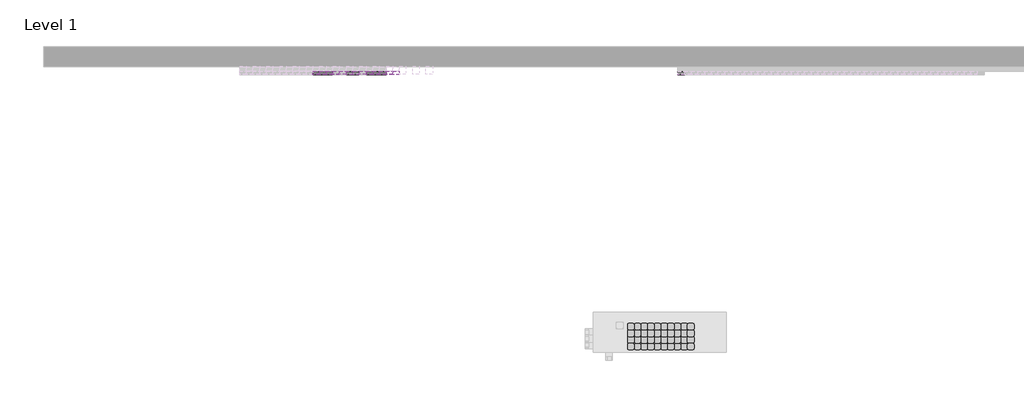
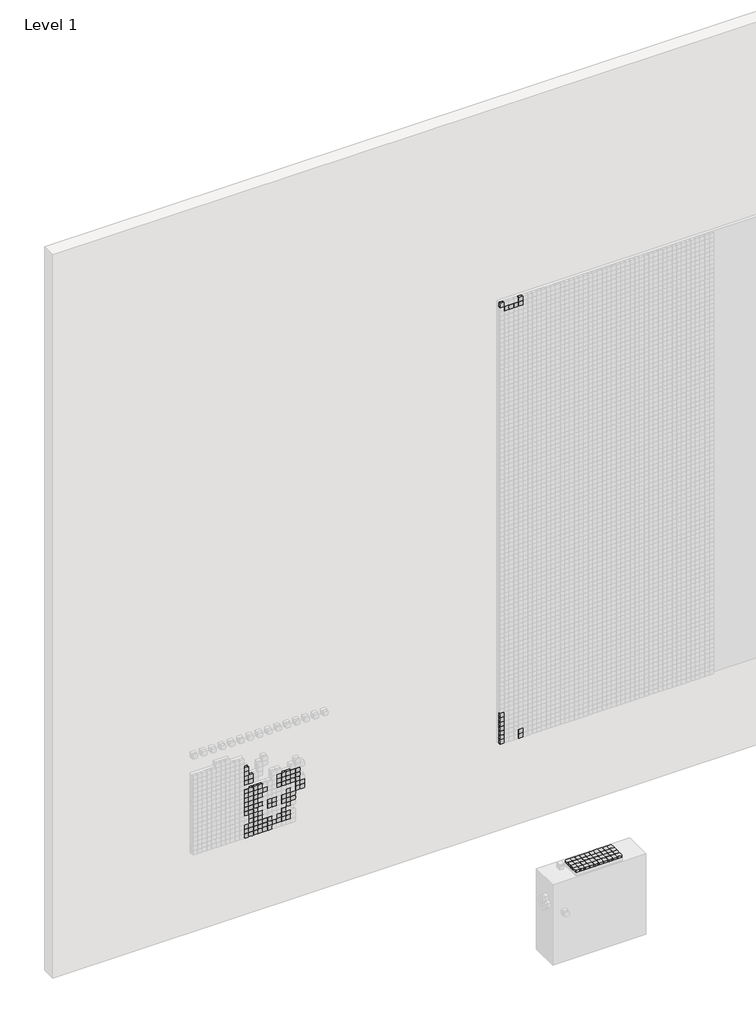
# One storey, part 3 of 71: 147 proxies.
"""IFC4 building model written with IfcOpenShell, lengths in millimetres."""

from ifc_helpers import new_model, si_unit, origin, place, context, project, spatial, transform, mapped, element, save
from components import generic_models_afde289c

model = new_model("IFC4")

# Units and contexts
model_context = context("Model", 3, world=origin())
ifc_project = project(units=[si_unit("LENGTHUNIT", "METRE", prefix="MILLI")], contexts=[model_context])

# Site, building, storey
site = spatial("IfcSite", under=ifc_project)
building = spatial("IfcBuilding", under=site)
storey = spatial("IfcBuildingStorey", under=building, Name="Level 1", Elevation=0.0)

# Proxies
placement = place(None, origin())
generic_models_shape = generic_models_afde289c(model_context)
element("IfcBuildingElementProxy", 1, Name="Pixel_M : Pixel_M", ObjectType="Pixel_M : Pixel_M", at=placement, inside=storey, context=model_context, shape_type="MappedRepresentation", body=[
    mapped(generic_models_shape, transform((4433.8917257, -2053.0296603, 913.2497015), x_axis=(0.0, 1.0, 0.0), y_axis=(-1.0, 0.0, 0.0), z_axis=(0.0, 0.0, 1.0))),
])
element("IfcBuildingElementProxy", 2, Name="Pixel_M : Pixel_M", ObjectType="Pixel_M : Pixel_M", at=placement, inside=storey, context=model_context, shape_type="MappedRepresentation", body=[
    mapped(generic_models_shape, transform((4433.8917257, -2203.0296603, 913.2497015), x_axis=(0.0, 1.0, 0.0), y_axis=(-1.0, 0.0, 0.0), z_axis=(0.0, 0.0, 1.0))),
])
element("IfcBuildingElementProxy", 3, Name="Pixel_M : Pixel_M", ObjectType="Pixel_M : Pixel_M", at=placement, inside=storey, context=model_context, shape_type="MappedRepresentation", body=[
    mapped(generic_models_shape, transform((4883.8917257, -2053.0296603, 913.2497015), x_axis=(0.0, 1.0, 0.0), y_axis=(-1.0, 0.0, 0.0), z_axis=(0.0, 0.0, 1.0))),
])
element("IfcBuildingElementProxy", 4, Name="Pixel_M : Pixel_M", ObjectType="Pixel_M : Pixel_M", at=placement, inside=storey, context=model_context, shape_type="MappedRepresentation", body=[
    mapped(generic_models_shape, transform((4883.8917257, -2203.0296603, 913.2497015), x_axis=(0.0, 1.0, 0.0), y_axis=(-1.0, 0.0, 0.0), z_axis=(0.0, 0.0, 1.0))),
])
element("IfcBuildingElementProxy", 5, Name="Pixel_M : Pixel_M", ObjectType="Pixel_M : Pixel_M", at=placement, inside=storey, context=model_context, shape_type="MappedRepresentation", body=[
    mapped(generic_models_shape, transform((4762.4280941, -75.0, 5966.3566215), x_axis=(1.0, 0.0, 0.0), y_axis=(0.0, 0.0, 1.0), z_axis=(0.0, -1.0, 0.0))),
])
element("IfcBuildingElementProxy", 6, Name="Pixel_M : Pixel_M", ObjectType="Pixel_M : Pixel_M", at=placement, inside=storey, context=model_context, shape_type="MappedRepresentation", body=[
    mapped(generic_models_shape, transform((4762.4280941, -75.0, 1016.3566215), x_axis=(1.0, 0.0, 0.0), y_axis=(0.0, 0.0, 1.0), z_axis=(0.0, -1.0, 0.0))),
])
element("IfcBuildingElementProxy", 7, Name="Pixel_M : Pixel_M", ObjectType="Pixel_M : Pixel_M", at=placement, inside=storey, context=model_context, shape_type="MappedRepresentation", body=[
    mapped(generic_models_shape, transform((2270.0, -75.0, 913.7975209), x_axis=(1.0, 0.0, 0.0), y_axis=(0.0, 0.0, 1.0), z_axis=(0.0, -1.0, 0.0))),
])
element("IfcBuildingElementProxy", 8, Name="Pixel_M : Pixel_M", ObjectType="Pixel_M : Pixel_M", at=placement, inside=storey, context=model_context, shape_type="MappedRepresentation", body=[
    mapped(generic_models_shape, transform((2220.0, -75.0, 913.7975209), x_axis=(1.0, 0.0, 0.0), y_axis=(0.0, 0.0, 1.0), z_axis=(0.0, -1.0, 0.0))),
])
element("IfcBuildingElementProxy", 9, Name="Pixel_M : Pixel_M", ObjectType="Pixel_M : Pixel_M", at=placement, inside=storey, context=model_context, shape_type="MappedRepresentation", body=[
    mapped(generic_models_shape, transform((2170.0, -75.0, 913.7975209), x_axis=(1.0, 0.0, 0.0), y_axis=(0.0, 0.0, 1.0), z_axis=(0.0, -1.0, 0.0))),
])
element("IfcBuildingElementProxy", 10, Name="Pixel_M : Pixel_M", ObjectType="Pixel_M : Pixel_M", at=placement, inside=storey, context=model_context, shape_type="MappedRepresentation", body=[
    mapped(generic_models_shape, transform((2120.0, -75.0, 913.7975209), x_axis=(1.0, 0.0, 0.0), y_axis=(0.0, 0.0, 1.0), z_axis=(0.0, -1.0, 0.0))),
])
element("IfcBuildingElementProxy", 11, Name="Pixel_M : Pixel_M", ObjectType="Pixel_M : Pixel_M", at=placement, inside=storey, context=model_context, shape_type="MappedRepresentation", body=[
    mapped(generic_models_shape, transform((2070.0, -75.0, 913.7975209), x_axis=(1.0, 0.0, 0.0), y_axis=(0.0, 0.0, 1.0), z_axis=(0.0, -1.0, 0.0))),
])
element("IfcBuildingElementProxy", 12, Name="Pixel_M : Pixel_M", ObjectType="Pixel_M : Pixel_M", at=placement, inside=storey, context=model_context, shape_type="MappedRepresentation", body=[
    mapped(generic_models_shape, transform((2020.0, -75.0, 913.7975209), x_axis=(1.0, 0.0, 0.0), y_axis=(0.0, 0.0, 1.0), z_axis=(0.0, -1.0, 0.0))),
])
element("IfcBuildingElementProxy", 13, Name="Pixel_M : Pixel_M", ObjectType="Pixel_M : Pixel_M", at=placement, inside=storey, context=model_context, shape_type="MappedRepresentation", body=[
    mapped(generic_models_shape, transform((2270.0, -75.0, 963.7975209), x_axis=(1.0, 0.0, 0.0), y_axis=(0.0, 0.0, 1.0), z_axis=(0.0, -1.0, 0.0))),
])
element("IfcBuildingElementProxy", 14, Name="Pixel_M : Pixel_M", ObjectType="Pixel_M : Pixel_M", at=placement, inside=storey, context=model_context, shape_type="MappedRepresentation", body=[
    mapped(generic_models_shape, transform((2220.0, -75.0, 963.7975209), x_axis=(1.0, 0.0, 0.0), y_axis=(0.0, 0.0, 1.0), z_axis=(0.0, -1.0, 0.0))),
])
element("IfcBuildingElementProxy", 15, Name="Pixel_M : Pixel_M", ObjectType="Pixel_M : Pixel_M", at=placement, inside=storey, context=model_context, shape_type="MappedRepresentation", body=[
    mapped(generic_models_shape, transform((2170.0, -75.0, 963.7975209), x_axis=(1.0, 0.0, 0.0), y_axis=(0.0, 0.0, 1.0), z_axis=(0.0, -1.0, 0.0))),
])
element("IfcBuildingElementProxy", 16, Name="Pixel_M : Pixel_M", ObjectType="Pixel_M : Pixel_M", at=placement, inside=storey, context=model_context, shape_type="MappedRepresentation", body=[
    mapped(generic_models_shape, transform((2120.0, -75.0, 963.7975209), x_axis=(1.0, 0.0, 0.0), y_axis=(0.0, 0.0, 1.0), z_axis=(0.0, -1.0, 0.0))),
])
element("IfcBuildingElementProxy", 17, Name="Pixel_M : Pixel_M", ObjectType="Pixel_M : Pixel_M", at=placement, inside=storey, context=model_context, shape_type="MappedRepresentation", body=[
    mapped(generic_models_shape, transform((2070.0, -75.0, 963.7975209), x_axis=(1.0, 0.0, 0.0), y_axis=(0.0, 0.0, 1.0), z_axis=(0.0, -1.0, 0.0))),
])
element("IfcBuildingElementProxy", 18, Name="Pixel_M : Pixel_M", ObjectType="Pixel_M : Pixel_M", at=placement, inside=storey, context=model_context, shape_type="MappedRepresentation", body=[
    mapped(generic_models_shape, transform((2020.0, -75.0, 963.7975209), x_axis=(1.0, 0.0, 0.0), y_axis=(0.0, 0.0, 1.0), z_axis=(0.0, -1.0, 0.0))),
])
element("IfcBuildingElementProxy", 19, Name="Pixel_M : Pixel_M", ObjectType="Pixel_M : Pixel_M", at=placement, inside=storey, context=model_context, shape_type="MappedRepresentation", body=[
    mapped(generic_models_shape, transform((2270.0, -75.0, 1013.7975209), x_axis=(1.0, 0.0, 0.0), y_axis=(0.0, 0.0, 1.0), z_axis=(0.0, -1.0, 0.0))),
])
element("IfcBuildingElementProxy", 20, Name="Pixel_M : Pixel_M", ObjectType="Pixel_M : Pixel_M", at=placement, inside=storey, context=model_context, shape_type="MappedRepresentation", body=[
    mapped(generic_models_shape, transform((2220.0, -75.0, 1013.7975209), x_axis=(1.0, 0.0, 0.0), y_axis=(0.0, 0.0, 1.0), z_axis=(0.0, -1.0, 0.0))),
])
element("IfcBuildingElementProxy", 21, Name="Pixel_M : Pixel_M", ObjectType="Pixel_M : Pixel_M", at=placement, inside=storey, context=model_context, shape_type="MappedRepresentation", body=[
    mapped(generic_models_shape, transform((2170.0, -75.0, 1013.7975209), x_axis=(1.0, 0.0, 0.0), y_axis=(0.0, 0.0, 1.0), z_axis=(0.0, -1.0, 0.0))),
])
element("IfcBuildingElementProxy", 22, Name="Pixel_M : Pixel_M", ObjectType="Pixel_M : Pixel_M", at=placement, inside=storey, context=model_context, shape_type="MappedRepresentation", body=[
    mapped(generic_models_shape, transform((2120.0, -75.0, 1013.7975209), x_axis=(1.0, 0.0, 0.0), y_axis=(0.0, 0.0, 1.0), z_axis=(0.0, -1.0, 0.0))),
])
element("IfcBuildingElementProxy", 23, Name="Pixel_M : Pixel_M", ObjectType="Pixel_M : Pixel_M", at=placement, inside=storey, context=model_context, shape_type="MappedRepresentation", body=[
    mapped(generic_models_shape, transform((2070.0, -75.0, 1013.7975209), x_axis=(1.0, 0.0, 0.0), y_axis=(0.0, 0.0, 1.0), z_axis=(0.0, -1.0, 0.0))),
])
element("IfcBuildingElementProxy", 24, Name="Pixel_M : Pixel_M", ObjectType="Pixel_M : Pixel_M", at=placement, inside=storey, context=model_context, shape_type="MappedRepresentation", body=[
    mapped(generic_models_shape, transform((2020.0, -75.0, 1013.7975209), x_axis=(1.0, 0.0, 0.0), y_axis=(0.0, 0.0, 1.0), z_axis=(0.0, -1.0, 0.0))),
])
element("IfcBuildingElementProxy", 25, Name="Pixel_M : Pixel_M", ObjectType="Pixel_M : Pixel_M", at=placement, inside=storey, context=model_context, shape_type="MappedRepresentation", body=[
    mapped(generic_models_shape, transform((2320.0, -75.0, 963.7975209), x_axis=(1.0, 0.0, 0.0), y_axis=(0.0, 0.0, 1.0), z_axis=(0.0, -1.0, 0.0))),
])
element("IfcBuildingElementProxy", 26, Name="Pixel_M : Pixel_M", ObjectType="Pixel_M : Pixel_M", at=placement, inside=storey, context=model_context, shape_type="MappedRepresentation", body=[
    mapped(generic_models_shape, transform((2520.0, -75.0, 1213.7975209), x_axis=(1.0, 0.0, 0.0), y_axis=(0.0, 0.0, 1.0), z_axis=(0.0, -1.0, 0.0))),
])
element("IfcBuildingElementProxy", 27, Name="Pixel_M : Pixel_M", ObjectType="Pixel_M : Pixel_M", at=placement, inside=storey, context=model_context, shape_type="MappedRepresentation", body=[
    mapped(generic_models_shape, transform((2420.0, -75.0, 1213.7975209), x_axis=(1.0, 0.0, 0.0), y_axis=(0.0, 0.0, 1.0), z_axis=(0.0, -1.0, 0.0))),
])
element("IfcBuildingElementProxy", 28, Name="Pixel_M : Pixel_M", ObjectType="Pixel_M : Pixel_M", at=placement, inside=storey, context=model_context, shape_type="MappedRepresentation", body=[
    mapped(generic_models_shape, transform((2520.0, -75.0, 1163.7975209), x_axis=(1.0, 0.0, 0.0), y_axis=(0.0, 0.0, 1.0), z_axis=(0.0, -1.0, 0.0))),
])
element("IfcBuildingElementProxy", 29, Name="Pixel_M : Pixel_M", ObjectType="Pixel_M : Pixel_M", at=placement, inside=storey, context=model_context, shape_type="MappedRepresentation", body=[
    mapped(generic_models_shape, transform((2420.0, -75.0, 1163.7975209), x_axis=(1.0, 0.0, 0.0), y_axis=(0.0, 0.0, 1.0), z_axis=(0.0, -1.0, 0.0))),
])
element("IfcBuildingElementProxy", 30, Name="Pixel_M : Pixel_M", ObjectType="Pixel_M : Pixel_M", at=placement, inside=storey, context=model_context, shape_type="MappedRepresentation", body=[
    mapped(generic_models_shape, transform((2470.0, -75.0, 1263.7975209), x_axis=(1.0, 0.0, 0.0), y_axis=(0.0, 0.0, 1.0), z_axis=(0.0, -1.0, 0.0))),
])
element("IfcBuildingElementProxy", 31, Name="Pixel_M : Pixel_M", ObjectType="Pixel_M : Pixel_M", at=placement, inside=storey, context=model_context, shape_type="MappedRepresentation", body=[
    mapped(generic_models_shape, transform((2470.0, -75.0, 1213.7975209), x_axis=(1.0, 0.0, 0.0), y_axis=(0.0, 0.0, 1.0), z_axis=(0.0, -1.0, 0.0))),
])
element("IfcBuildingElementProxy", 32, Name="Pixel_M : Pixel_M", ObjectType="Pixel_M : Pixel_M", at=placement, inside=storey, context=model_context, shape_type="MappedRepresentation", body=[
    mapped(generic_models_shape, transform((2470.0, -75.0, 1163.7975209), x_axis=(1.0, 0.0, 0.0), y_axis=(0.0, 0.0, 1.0), z_axis=(0.0, -1.0, 0.0))),
])
element("IfcBuildingElementProxy", 33, Name="Pixel_M : Pixel_M", ObjectType="Pixel_M : Pixel_M", at=placement, inside=storey, context=model_context, shape_type="MappedRepresentation", body=[
    mapped(generic_models_shape, transform((2470.0, -75.0, 1113.7975209), x_axis=(1.0, 0.0, 0.0), y_axis=(0.0, 0.0, 1.0), z_axis=(0.0, -1.0, 0.0))),
])
element("IfcBuildingElementProxy", 34, Name="Pixel_M : Pixel_M", ObjectType="Pixel_M : Pixel_M", at=placement, inside=storey, context=model_context, shape_type="MappedRepresentation", body=[
    mapped(generic_models_shape, transform((4962.4280941, -75.0, 1016.3566215), x_axis=(1.0, 0.0, 0.0), y_axis=(0.0, 0.0, 1.0), z_axis=(0.0, -1.0, 0.0))),
])
element("IfcBuildingElementProxy", 35, Name="Pixel_M : Pixel_M", ObjectType="Pixel_M : Pixel_M", at=placement, inside=storey, context=model_context, shape_type="MappedRepresentation", body=[
    mapped(generic_models_shape, transform((4962.4280941, -75.0, 1066.3566215), x_axis=(1.0, 0.0, 0.0), y_axis=(0.0, 0.0, 1.0), z_axis=(0.0, -1.0, 0.0))),
])
element("IfcBuildingElementProxy", 36, Name="Pixel_M : Pixel_M", ObjectType="Pixel_M : Pixel_M", at=placement, inside=storey, context=model_context, shape_type="MappedRepresentation", body=[
    mapped(generic_models_shape, transform((4762.4280941, -75.0, 1316.3566215), x_axis=(1.0, 0.0, 0.0), y_axis=(0.0, 0.0, 1.0), z_axis=(0.0, -1.0, 0.0))),
])
element("IfcBuildingElementProxy", 37, Name="Pixel_M : Pixel_M", ObjectType="Pixel_M : Pixel_M", at=placement, inside=storey, context=model_context, shape_type="MappedRepresentation", body=[
    mapped(generic_models_shape, transform((4762.4280941, -75.0, 1266.3566215), x_axis=(1.0, 0.0, 0.0), y_axis=(0.0, 0.0, 1.0), z_axis=(0.0, -1.0, 0.0))),
])
element("IfcBuildingElementProxy", 38, Name="Pixel_M : Pixel_M", ObjectType="Pixel_M : Pixel_M", at=placement, inside=storey, context=model_context, shape_type="MappedRepresentation", body=[
    mapped(generic_models_shape, transform((4762.4280941, -75.0, 1216.3566215), x_axis=(1.0, 0.0, 0.0), y_axis=(0.0, 0.0, 1.0), z_axis=(0.0, -1.0, 0.0))),
])
element("IfcBuildingElementProxy", 39, Name="Pixel_M : Pixel_M", ObjectType="Pixel_M : Pixel_M", at=placement, inside=storey, context=model_context, shape_type="MappedRepresentation", body=[
    mapped(generic_models_shape, transform((4762.4280941, -75.0, 1166.3566215), x_axis=(1.0, 0.0, 0.0), y_axis=(0.0, 0.0, 1.0), z_axis=(0.0, -1.0, 0.0))),
])
element("IfcBuildingElementProxy", 40, Name="Pixel_M : Pixel_M", ObjectType="Pixel_M : Pixel_M", at=placement, inside=storey, context=model_context, shape_type="MappedRepresentation", body=[
    mapped(generic_models_shape, transform((4762.4280941, -75.0, 1116.3566215), x_axis=(1.0, 0.0, 0.0), y_axis=(0.0, 0.0, 1.0), z_axis=(0.0, -1.0, 0.0))),
])
element("IfcBuildingElementProxy", 41, Name="Pixel_M : Pixel_M", ObjectType="Pixel_M : Pixel_M", at=placement, inside=storey, context=model_context, shape_type="MappedRepresentation", body=[
    mapped(generic_models_shape, transform((4762.4280941, -75.0, 1066.3566215), x_axis=(1.0, 0.0, 0.0), y_axis=(0.0, 0.0, 1.0), z_axis=(0.0, -1.0, 0.0))),
])
element("IfcBuildingElementProxy", 42, Name="Pixel_M : Pixel_M", ObjectType="Pixel_M : Pixel_M", at=placement, inside=storey, context=model_context, shape_type="MappedRepresentation", body=[
    mapped(generic_models_shape, transform((4962.4280941, -75.0, 5966.3566215), x_axis=(1.0, 0.0, 0.0), y_axis=(0.0, 0.0, 1.0), z_axis=(0.0, -1.0, 0.0))),
])
element("IfcBuildingElementProxy", 43, Name="Pixel_M : Pixel_M", ObjectType="Pixel_M : Pixel_M", at=placement, inside=storey, context=model_context, shape_type="MappedRepresentation", body=[
    mapped(generic_models_shape, transform((4962.4280941, -75.0, 5916.3566215), x_axis=(1.0, 0.0, 0.0), y_axis=(0.0, 0.0, 1.0), z_axis=(0.0, -1.0, 0.0))),
])
element("IfcBuildingElementProxy", 44, Name="Pixel_M : Pixel_M", ObjectType="Pixel_M : Pixel_M", at=placement, inside=storey, context=model_context, shape_type="MappedRepresentation", body=[
    mapped(generic_models_shape, transform((4912.4280941, -75.0, 5916.3566215), x_axis=(1.0, 0.0, 0.0), y_axis=(0.0, 0.0, 1.0), z_axis=(0.0, -1.0, 0.0))),
])
element("IfcBuildingElementProxy", 45, Name="Pixel_M : Pixel_M", ObjectType="Pixel_M : Pixel_M", at=placement, inside=storey, context=model_context, shape_type="MappedRepresentation", body=[
    mapped(generic_models_shape, transform((4862.4280941, -75.0, 5916.3566215), x_axis=(1.0, 0.0, 0.0), y_axis=(0.0, 0.0, 1.0), z_axis=(0.0, -1.0, 0.0))),
])
element("IfcBuildingElementProxy", 46, Name="Pixel_M : Pixel_M", ObjectType="Pixel_M : Pixel_M", at=placement, inside=storey, context=model_context, shape_type="MappedRepresentation", body=[
    mapped(generic_models_shape, transform((4812.4280941, -75.0, 5916.3566215), x_axis=(1.0, 0.0, 0.0), y_axis=(0.0, 0.0, 1.0), z_axis=(0.0, -1.0, 0.0))),
])
element("IfcBuildingElementProxy", 47, Name="Pixel_M : Pixel_M", ObjectType="Pixel_M : Pixel_M", at=placement, inside=storey, context=model_context, shape_type="MappedRepresentation", body=[
    mapped(generic_models_shape, transform((4433.8917257, -2103.0296603, 913.2497015), x_axis=(0.0, 1.0, 0.0), y_axis=(-1.0, 0.0, 0.0), z_axis=(0.0, 0.0, 1.0))),
])
element("IfcBuildingElementProxy", 48, Name="Pixel_M : Pixel_M", ObjectType="Pixel_M : Pixel_M", at=placement, inside=storey, context=model_context, shape_type="MappedRepresentation", body=[
    mapped(generic_models_shape, transform((4433.8917257, -2153.0296603, 913.2497015), x_axis=(0.0, 1.0, 0.0), y_axis=(-1.0, 0.0, 0.0), z_axis=(0.0, 0.0, 1.0))),
])
element("IfcBuildingElementProxy", 49, Name="Pixel_M : Pixel_M", ObjectType="Pixel_M : Pixel_M", at=placement, inside=storey, context=model_context, shape_type="MappedRepresentation", body=[
    mapped(generic_models_shape, transform((4883.8917257, -2103.0296603, 913.2497015), x_axis=(0.0, 1.0, 0.0), y_axis=(-1.0, 0.0, 0.0), z_axis=(0.0, 0.0, 1.0))),
])
element("IfcBuildingElementProxy", 50, Name="Pixel_M : Pixel_M", ObjectType="Pixel_M : Pixel_M", at=placement, inside=storey, context=model_context, shape_type="MappedRepresentation", body=[
    mapped(generic_models_shape, transform((4883.8917257, -2153.0296603, 913.2497015), x_axis=(0.0, 1.0, 0.0), y_axis=(-1.0, 0.0, 0.0), z_axis=(0.0, 0.0, 1.0))),
])
element("IfcBuildingElementProxy", 51, Name="Pixel_M : Pixel_M", ObjectType="Pixel_M : Pixel_M", at=placement, inside=storey, context=model_context, shape_type="MappedRepresentation", body=[
    mapped(generic_models_shape, transform((4483.8917257, -2053.0296603, 913.2497015), x_axis=(0.0, 1.0, 0.0), y_axis=(-1.0, 0.0, 0.0), z_axis=(0.0, 0.0, 1.0))),
])
element("IfcBuildingElementProxy", 52, Name="Pixel_M : Pixel_M", ObjectType="Pixel_M : Pixel_M", at=placement, inside=storey, context=model_context, shape_type="MappedRepresentation", body=[
    mapped(generic_models_shape, transform((4483.8917257, -2103.0296603, 913.2497015), x_axis=(0.0, 1.0, 0.0), y_axis=(-1.0, 0.0, 0.0), z_axis=(0.0, 0.0, 1.0))),
])
element("IfcBuildingElementProxy", 53, Name="Pixel_M : Pixel_M", ObjectType="Pixel_M : Pixel_M", at=placement, inside=storey, context=model_context, shape_type="MappedRepresentation", body=[
    mapped(generic_models_shape, transform((4483.8917257, -2153.0296603, 913.2497015), x_axis=(0.0, 1.0, 0.0), y_axis=(-1.0, 0.0, 0.0), z_axis=(0.0, 0.0, 1.0))),
])
element("IfcBuildingElementProxy", 54, Name="Pixel_M : Pixel_M", ObjectType="Pixel_M : Pixel_M", at=placement, inside=storey, context=model_context, shape_type="MappedRepresentation", body=[
    mapped(generic_models_shape, transform((4483.8917257, -2203.0296603, 913.2497015), x_axis=(0.0, 1.0, 0.0), y_axis=(-1.0, 0.0, 0.0), z_axis=(0.0, 0.0, 1.0))),
])
element("IfcBuildingElementProxy", 55, Name="Pixel_M : Pixel_M", ObjectType="Pixel_M : Pixel_M", at=placement, inside=storey, context=model_context, shape_type="MappedRepresentation", body=[
    mapped(generic_models_shape, transform((4533.8917257, -2053.0296603, 913.2497015), x_axis=(0.0, 1.0, 0.0), y_axis=(-1.0, 0.0, 0.0), z_axis=(0.0, 0.0, 1.0))),
])
element("IfcBuildingElementProxy", 56, Name="Pixel_M : Pixel_M", ObjectType="Pixel_M : Pixel_M", at=placement, inside=storey, context=model_context, shape_type="MappedRepresentation", body=[
    mapped(generic_models_shape, transform((4533.8917257, -2103.0296603, 913.2497015), x_axis=(0.0, 1.0, 0.0), y_axis=(-1.0, 0.0, 0.0), z_axis=(0.0, 0.0, 1.0))),
])
element("IfcBuildingElementProxy", 57, Name="Pixel_M : Pixel_M", ObjectType="Pixel_M : Pixel_M", at=placement, inside=storey, context=model_context, shape_type="MappedRepresentation", body=[
    mapped(generic_models_shape, transform((4533.8917257, -2153.0296603, 913.2497015), x_axis=(0.0, 1.0, 0.0), y_axis=(-1.0, 0.0, 0.0), z_axis=(0.0, 0.0, 1.0))),
])
element("IfcBuildingElementProxy", 58, Name="Pixel_M : Pixel_M", ObjectType="Pixel_M : Pixel_M", at=placement, inside=storey, context=model_context, shape_type="MappedRepresentation", body=[
    mapped(generic_models_shape, transform((4533.8917257, -2203.0296603, 913.2497015), x_axis=(0.0, 1.0, 0.0), y_axis=(-1.0, 0.0, 0.0), z_axis=(0.0, 0.0, 1.0))),
])
element("IfcBuildingElementProxy", 59, Name="Pixel_M : Pixel_M", ObjectType="Pixel_M : Pixel_M", at=placement, inside=storey, context=model_context, shape_type="MappedRepresentation", body=[
    mapped(generic_models_shape, transform((4583.8917257, -2053.0296603, 913.2497015), x_axis=(0.0, 1.0, 0.0), y_axis=(-1.0, 0.0, 0.0), z_axis=(0.0, 0.0, 1.0))),
])
element("IfcBuildingElementProxy", 60, Name="Pixel_M : Pixel_M", ObjectType="Pixel_M : Pixel_M", at=placement, inside=storey, context=model_context, shape_type="MappedRepresentation", body=[
    mapped(generic_models_shape, transform((4583.8917257, -2103.0296603, 913.2497015), x_axis=(0.0, 1.0, 0.0), y_axis=(-1.0, 0.0, 0.0), z_axis=(0.0, 0.0, 1.0))),
])
element("IfcBuildingElementProxy", 61, Name="Pixel_M : Pixel_M", ObjectType="Pixel_M : Pixel_M", at=placement, inside=storey, context=model_context, shape_type="MappedRepresentation", body=[
    mapped(generic_models_shape, transform((4583.8917257, -2153.0296603, 913.2497015), x_axis=(0.0, 1.0, 0.0), y_axis=(-1.0, 0.0, 0.0), z_axis=(0.0, 0.0, 1.0))),
])
element("IfcBuildingElementProxy", 62, Name="Pixel_M : Pixel_M", ObjectType="Pixel_M : Pixel_M", at=placement, inside=storey, context=model_context, shape_type="MappedRepresentation", body=[
    mapped(generic_models_shape, transform((4583.8917257, -2203.0296603, 913.2497015), x_axis=(0.0, 1.0, 0.0), y_axis=(-1.0, 0.0, 0.0), z_axis=(0.0, 0.0, 1.0))),
])
element("IfcBuildingElementProxy", 63, Name="Pixel_M : Pixel_M", ObjectType="Pixel_M : Pixel_M", at=placement, inside=storey, context=model_context, shape_type="MappedRepresentation", body=[
    mapped(generic_models_shape, transform((4633.8917257, -2053.0296603, 913.2497015), x_axis=(0.0, 1.0, 0.0), y_axis=(-1.0, 0.0, 0.0), z_axis=(0.0, 0.0, 1.0))),
])
element("IfcBuildingElementProxy", 64, Name="Pixel_M : Pixel_M", ObjectType="Pixel_M : Pixel_M", at=placement, inside=storey, context=model_context, shape_type="MappedRepresentation", body=[
    mapped(generic_models_shape, transform((4633.8917257, -2103.0296603, 913.2497015), x_axis=(0.0, 1.0, 0.0), y_axis=(-1.0, 0.0, 0.0), z_axis=(0.0, 0.0, 1.0))),
])
element("IfcBuildingElementProxy", 65, Name="Pixel_M : Pixel_M", ObjectType="Pixel_M : Pixel_M", at=placement, inside=storey, context=model_context, shape_type="MappedRepresentation", body=[
    mapped(generic_models_shape, transform((4633.8917257, -2153.0296603, 913.2497015), x_axis=(0.0, 1.0, 0.0), y_axis=(-1.0, 0.0, 0.0), z_axis=(0.0, 0.0, 1.0))),
])
element("IfcBuildingElementProxy", 66, Name="Pixel_M : Pixel_M", ObjectType="Pixel_M : Pixel_M", at=placement, inside=storey, context=model_context, shape_type="MappedRepresentation", body=[
    mapped(generic_models_shape, transform((4633.8917257, -2203.0296603, 913.2497015), x_axis=(0.0, 1.0, 0.0), y_axis=(-1.0, 0.0, 0.0), z_axis=(0.0, 0.0, 1.0))),
])
element("IfcBuildingElementProxy", 67, Name="Pixel_M : Pixel_M", ObjectType="Pixel_M : Pixel_M", at=placement, inside=storey, context=model_context, shape_type="MappedRepresentation", body=[
    mapped(generic_models_shape, transform((4683.8917257, -2053.0296603, 913.2497015), x_axis=(0.0, 1.0, 0.0), y_axis=(-1.0, 0.0, 0.0), z_axis=(0.0, 0.0, 1.0))),
])
element("IfcBuildingElementProxy", 68, Name="Pixel_M : Pixel_M", ObjectType="Pixel_M : Pixel_M", at=placement, inside=storey, context=model_context, shape_type="MappedRepresentation", body=[
    mapped(generic_models_shape, transform((4683.8917257, -2103.0296603, 913.2497015), x_axis=(0.0, 1.0, 0.0), y_axis=(-1.0, 0.0, 0.0), z_axis=(0.0, 0.0, 1.0))),
])
element("IfcBuildingElementProxy", 69, Name="Pixel_M : Pixel_M", ObjectType="Pixel_M : Pixel_M", at=placement, inside=storey, context=model_context, shape_type="MappedRepresentation", body=[
    mapped(generic_models_shape, transform((4683.8917257, -2153.0296603, 913.2497015), x_axis=(0.0, 1.0, 0.0), y_axis=(-1.0, 0.0, 0.0), z_axis=(0.0, 0.0, 1.0))),
])
element("IfcBuildingElementProxy", 70, Name="Pixel_M : Pixel_M", ObjectType="Pixel_M : Pixel_M", at=placement, inside=storey, context=model_context, shape_type="MappedRepresentation", body=[
    mapped(generic_models_shape, transform((4683.8917257, -2203.0296603, 913.2497015), x_axis=(0.0, 1.0, 0.0), y_axis=(-1.0, 0.0, 0.0), z_axis=(0.0, 0.0, 1.0))),
])
element("IfcBuildingElementProxy", 71, Name="Pixel_M : Pixel_M", ObjectType="Pixel_M : Pixel_M", at=placement, inside=storey, context=model_context, shape_type="MappedRepresentation", body=[
    mapped(generic_models_shape, transform((4733.8917257, -2053.0296603, 913.2497015), x_axis=(0.0, 1.0, 0.0), y_axis=(-1.0, 0.0, 0.0), z_axis=(0.0, 0.0, 1.0))),
])
element("IfcBuildingElementProxy", 72, Name="Pixel_M : Pixel_M", ObjectType="Pixel_M : Pixel_M", at=placement, inside=storey, context=model_context, shape_type="MappedRepresentation", body=[
    mapped(generic_models_shape, transform((4733.8917257, -2103.0296603, 913.2497015), x_axis=(0.0, 1.0, 0.0), y_axis=(-1.0, 0.0, 0.0), z_axis=(0.0, 0.0, 1.0))),
])
element("IfcBuildingElementProxy", 73, Name="Pixel_M : Pixel_M", ObjectType="Pixel_M : Pixel_M", at=placement, inside=storey, context=model_context, shape_type="MappedRepresentation", body=[
    mapped(generic_models_shape, transform((4733.8917257, -2153.0296603, 913.2497015), x_axis=(0.0, 1.0, 0.0), y_axis=(-1.0, 0.0, 0.0), z_axis=(0.0, 0.0, 1.0))),
])
element("IfcBuildingElementProxy", 74, Name="Pixel_M : Pixel_M", ObjectType="Pixel_M : Pixel_M", at=placement, inside=storey, context=model_context, shape_type="MappedRepresentation", body=[
    mapped(generic_models_shape, transform((4733.8917257, -2203.0296603, 913.2497015), x_axis=(0.0, 1.0, 0.0), y_axis=(-1.0, 0.0, 0.0), z_axis=(0.0, 0.0, 1.0))),
])
element("IfcBuildingElementProxy", 75, Name="Pixel_M : Pixel_M", ObjectType="Pixel_M : Pixel_M", at=placement, inside=storey, context=model_context, shape_type="MappedRepresentation", body=[
    mapped(generic_models_shape, transform((4783.8917257, -2053.0296603, 913.2497015), x_axis=(0.0, 1.0, 0.0), y_axis=(-1.0, 0.0, 0.0), z_axis=(0.0, 0.0, 1.0))),
])
element("IfcBuildingElementProxy", 76, Name="Pixel_M : Pixel_M", ObjectType="Pixel_M : Pixel_M", at=placement, inside=storey, context=model_context, shape_type="MappedRepresentation", body=[
    mapped(generic_models_shape, transform((4783.8917257, -2103.0296603, 913.2497015), x_axis=(0.0, 1.0, 0.0), y_axis=(-1.0, 0.0, 0.0), z_axis=(0.0, 0.0, 1.0))),
])
element("IfcBuildingElementProxy", 77, Name="Pixel_M : Pixel_M", ObjectType="Pixel_M : Pixel_M", at=placement, inside=storey, context=model_context, shape_type="MappedRepresentation", body=[
    mapped(generic_models_shape, transform((4783.8917257, -2153.0296603, 913.2497015), x_axis=(0.0, 1.0, 0.0), y_axis=(-1.0, 0.0, 0.0), z_axis=(0.0, 0.0, 1.0))),
])
element("IfcBuildingElementProxy", 78, Name="Pixel_M : Pixel_M", ObjectType="Pixel_M : Pixel_M", at=placement, inside=storey, context=model_context, shape_type="MappedRepresentation", body=[
    mapped(generic_models_shape, transform((4783.8917257, -2203.0296603, 913.2497015), x_axis=(0.0, 1.0, 0.0), y_axis=(-1.0, 0.0, 0.0), z_axis=(0.0, 0.0, 1.0))),
])
element("IfcBuildingElementProxy", 79, Name="Pixel_M : Pixel_M", ObjectType="Pixel_M : Pixel_M", at=placement, inside=storey, context=model_context, shape_type="MappedRepresentation", body=[
    mapped(generic_models_shape, transform((4833.8917257, -2053.0296603, 913.2497015), x_axis=(0.0, 1.0, 0.0), y_axis=(-1.0, 0.0, 0.0), z_axis=(0.0, 0.0, 1.0))),
])
element("IfcBuildingElementProxy", 80, Name="Pixel_M : Pixel_M", ObjectType="Pixel_M : Pixel_M", at=placement, inside=storey, context=model_context, shape_type="MappedRepresentation", body=[
    mapped(generic_models_shape, transform((4833.8917257, -2103.0296603, 913.2497015), x_axis=(0.0, 1.0, 0.0), y_axis=(-1.0, 0.0, 0.0), z_axis=(0.0, 0.0, 1.0))),
])
element("IfcBuildingElementProxy", 81, Name="Pixel_M : Pixel_M", ObjectType="Pixel_M : Pixel_M", at=placement, inside=storey, context=model_context, shape_type="MappedRepresentation", body=[
    mapped(generic_models_shape, transform((4833.8917257, -2153.0296603, 913.2497015), x_axis=(0.0, 1.0, 0.0), y_axis=(-1.0, 0.0, 0.0), z_axis=(0.0, 0.0, 1.0))),
])
element("IfcBuildingElementProxy", 82, Name="Pixel_M : Pixel_M", ObjectType="Pixel_M : Pixel_M", at=placement, inside=storey, context=model_context, shape_type="MappedRepresentation", body=[
    mapped(generic_models_shape, transform((4833.8917257, -2203.0296603, 913.2497015), x_axis=(0.0, 1.0, 0.0), y_axis=(-1.0, 0.0, 0.0), z_axis=(0.0, 0.0, 1.0))),
])
element("IfcBuildingElementProxy", 83, Name="Pixel_M : Pixel_M", ObjectType="Pixel_M : Pixel_M", at=placement, inside=storey, context=model_context, shape_type="MappedRepresentation", body=[
    mapped(generic_models_shape, transform((2470.0, -75.0, 963.7975209), x_axis=(1.0, 0.0, 0.0), y_axis=(0.0, 0.0, 1.0), z_axis=(0.0, -1.0, 0.0))),
])
element("IfcBuildingElementProxy", 84, Name="Pixel_M : Pixel_M", ObjectType="Pixel_M : Pixel_M", at=placement, inside=storey, context=model_context, shape_type="MappedRepresentation", body=[
    mapped(generic_models_shape, transform((2370.0, -75.0, 963.7975209), x_axis=(1.0, 0.0, 0.0), y_axis=(0.0, 0.0, 1.0), z_axis=(0.0, -1.0, 0.0))),
])
element("IfcBuildingElementProxy", 85, Name="Pixel_M : Pixel_M", ObjectType="Pixel_M : Pixel_M", at=placement, inside=storey, context=model_context, shape_type="MappedRepresentation", body=[
    mapped(generic_models_shape, transform((2570.0, -75.0, 1463.7975209), x_axis=(1.0, 0.0, 0.0), y_axis=(0.0, 0.0, 1.0), z_axis=(0.0, -1.0, 0.0))),
])
element("IfcBuildingElementProxy", 86, Name="Pixel_M : Pixel_M", ObjectType="Pixel_M : Pixel_M", at=placement, inside=storey, context=model_context, shape_type="MappedRepresentation", body=[
    mapped(generic_models_shape, transform((2370.0, -75.0, 1463.7975209), x_axis=(1.0, 0.0, 0.0), y_axis=(0.0, 0.0, 1.0), z_axis=(0.0, -1.0, 0.0))),
])
element("IfcBuildingElementProxy", 87, Name="Pixel_M : Pixel_M", ObjectType="Pixel_M : Pixel_M", at=placement, inside=storey, context=model_context, shape_type="MappedRepresentation", body=[
    mapped(generic_models_shape, transform((2570.0, -75.0, 1363.7975209), x_axis=(1.0, 0.0, 0.0), y_axis=(0.0, 0.0, 1.0), z_axis=(0.0, -1.0, 0.0))),
])
element("IfcBuildingElementProxy", 88, Name="Pixel_M : Pixel_M", ObjectType="Pixel_M : Pixel_M", at=placement, inside=storey, context=model_context, shape_type="MappedRepresentation", body=[
    mapped(generic_models_shape, transform((2370.0, -75.0, 1363.7975209), x_axis=(1.0, 0.0, 0.0), y_axis=(0.0, 0.0, 1.0), z_axis=(0.0, -1.0, 0.0))),
])
element("IfcBuildingElementProxy", 89, Name="Pixel_M : Pixel_M", ObjectType="Pixel_M : Pixel_M", at=placement, inside=storey, context=model_context, shape_type="MappedRepresentation", body=[
    mapped(generic_models_shape, transform((2070.0, -75.0, 1563.7975209), x_axis=(1.0, 0.0, 0.0), y_axis=(0.0, 0.0, 1.0), z_axis=(0.0, -1.0, 0.0))),
])
element("IfcBuildingElementProxy", 90, Name="Pixel_M : Pixel_M", ObjectType="Pixel_M : Pixel_M", at=placement, inside=storey, context=model_context, shape_type="MappedRepresentation", body=[
    mapped(generic_models_shape, transform((2070.0, -75.0, 1513.7975209), x_axis=(1.0, 0.0, 0.0), y_axis=(0.0, 0.0, 1.0), z_axis=(0.0, -1.0, 0.0))),
])
element("IfcBuildingElementProxy", 91, Name="Pixel_M : Pixel_M", ObjectType="Pixel_M : Pixel_M", at=placement, inside=storey, context=model_context, shape_type="MappedRepresentation", body=[
    mapped(generic_models_shape, transform((2020.0, -75.0, 1663.7975209), x_axis=(1.0, 0.0, 0.0), y_axis=(0.0, 0.0, 1.0), z_axis=(0.0, -1.0, 0.0))),
])
element("IfcBuildingElementProxy", 92, Name="Pixel_M : Pixel_M", ObjectType="Pixel_M : Pixel_M", at=placement, inside=storey, context=model_context, shape_type="MappedRepresentation", body=[
    mapped(generic_models_shape, transform((2020.0, -75.0, 1613.7975209), x_axis=(1.0, 0.0, 0.0), y_axis=(0.0, 0.0, 1.0), z_axis=(0.0, -1.0, 0.0))),
])
element("IfcBuildingElementProxy", 93, Name="Pixel_M : Pixel_M", ObjectType="Pixel_M : Pixel_M", at=placement, inside=storey, context=model_context, shape_type="MappedRepresentation", body=[
    mapped(generic_models_shape, transform((2020.0, -75.0, 1563.7975209), x_axis=(1.0, 0.0, 0.0), y_axis=(0.0, 0.0, 1.0), z_axis=(0.0, -1.0, 0.0))),
])
element("IfcBuildingElementProxy", 94, Name="Pixel_M : Pixel_M", ObjectType="Pixel_M : Pixel_M", at=placement, inside=storey, context=model_context, shape_type="MappedRepresentation", body=[
    mapped(generic_models_shape, transform((2020.0, -75.0, 1513.7975209), x_axis=(1.0, 0.0, 0.0), y_axis=(0.0, 0.0, 1.0), z_axis=(0.0, -1.0, 0.0))),
])
element("IfcBuildingElementProxy", 95, Name="Pixel_M : Pixel_M", ObjectType="Pixel_M : Pixel_M", at=placement, inside=storey, context=model_context, shape_type="MappedRepresentation", body=[
    mapped(generic_models_shape, transform((2320.0, -75.0, 1213.7975209), x_axis=(1.0, 0.0, 0.0), y_axis=(0.0, 0.0, 1.0), z_axis=(0.0, -1.0, 0.0))),
])
element("IfcBuildingElementProxy", 96, Name="Pixel_M : Pixel_M", ObjectType="Pixel_M : Pixel_M", at=placement, inside=storey, context=model_context, shape_type="MappedRepresentation", body=[
    mapped(generic_models_shape, transform((2270.0, -75.0, 1213.7975209), x_axis=(1.0, 0.0, 0.0), y_axis=(0.0, 0.0, 1.0), z_axis=(0.0, -1.0, 0.0))),
])
element("IfcBuildingElementProxy", 97, Name="Pixel_M : Pixel_M", ObjectType="Pixel_M : Pixel_M", at=placement, inside=storey, context=model_context, shape_type="MappedRepresentation", body=[
    mapped(generic_models_shape, transform((2320.0, -75.0, 1163.7975209), x_axis=(1.0, 0.0, 0.0), y_axis=(0.0, 0.0, 1.0), z_axis=(0.0, -1.0, 0.0))),
])
element("IfcBuildingElementProxy", 98, Name="Pixel_M : Pixel_M", ObjectType="Pixel_M : Pixel_M", at=placement, inside=storey, context=model_context, shape_type="MappedRepresentation", body=[
    mapped(generic_models_shape, transform((2270.0, -75.0, 1163.7975209), x_axis=(1.0, 0.0, 0.0), y_axis=(0.0, 0.0, 1.0), z_axis=(0.0, -1.0, 0.0))),
])
element("IfcBuildingElementProxy", 99, Name="Pixel_M : Pixel_M", ObjectType="Pixel_M : Pixel_M", at=placement, inside=storey, context=model_context, shape_type="MappedRepresentation", body=[
    mapped(generic_models_shape, transform((2470.0, -75.0, 1013.7975209), x_axis=(1.0, 0.0, 0.0), y_axis=(0.0, 0.0, 1.0), z_axis=(0.0, -1.0, 0.0))),
])
element("IfcBuildingElementProxy", 100, Name="Pixel_M : Pixel_M", ObjectType="Pixel_M : Pixel_M", at=placement, inside=storey, context=model_context, shape_type="MappedRepresentation", body=[
    mapped(generic_models_shape, transform((2370.0, -75.0, 1013.7975209), x_axis=(1.0, 0.0, 0.0), y_axis=(0.0, 0.0, 1.0), z_axis=(0.0, -1.0, 0.0))),
])
element("IfcBuildingElementProxy", 101, Name="Pixel_M : Pixel_M", ObjectType="Pixel_M : Pixel_M", at=placement, inside=storey, context=model_context, shape_type="MappedRepresentation", body=[
    mapped(generic_models_shape, transform((2420.0, -75.0, 1063.7975209), x_axis=(1.0, 0.0, 0.0), y_axis=(0.0, 0.0, 1.0), z_axis=(0.0, -1.0, 0.0))),
])
element("IfcBuildingElementProxy", 102, Name="Pixel_M : Pixel_M", ObjectType="Pixel_M : Pixel_M", at=placement, inside=storey, context=model_context, shape_type="MappedRepresentation", body=[
    mapped(generic_models_shape, transform((2420.0, -75.0, 1013.7975209), x_axis=(1.0, 0.0, 0.0), y_axis=(0.0, 0.0, 1.0), z_axis=(0.0, -1.0, 0.0))),
])
element("IfcBuildingElementProxy", 103, Name="Pixel_M : Pixel_M", ObjectType="Pixel_M : Pixel_M", at=placement, inside=storey, context=model_context, shape_type="MappedRepresentation", body=[
    mapped(generic_models_shape, transform((2420.0, -75.0, 963.7975209), x_axis=(1.0, 0.0, 0.0), y_axis=(0.0, 0.0, 1.0), z_axis=(0.0, -1.0, 0.0))),
])
element("IfcBuildingElementProxy", 104, Name="Pixel_M : Pixel_M", ObjectType="Pixel_M : Pixel_M", at=placement, inside=storey, context=model_context, shape_type="MappedRepresentation", body=[
    mapped(generic_models_shape, transform((2520.0, -75.0, 1463.7975209), x_axis=(1.0, 0.0, 0.0), y_axis=(0.0, 0.0, 1.0), z_axis=(0.0, -1.0, 0.0))),
])
element("IfcBuildingElementProxy", 105, Name="Pixel_M : Pixel_M", ObjectType="Pixel_M : Pixel_M", at=placement, inside=storey, context=model_context, shape_type="MappedRepresentation", body=[
    mapped(generic_models_shape, transform((2470.0, -75.0, 1463.7975209), x_axis=(1.0, 0.0, 0.0), y_axis=(0.0, 0.0, 1.0), z_axis=(0.0, -1.0, 0.0))),
])
element("IfcBuildingElementProxy", 106, Name="Pixel_M : Pixel_M", ObjectType="Pixel_M : Pixel_M", at=placement, inside=storey, context=model_context, shape_type="MappedRepresentation", body=[
    mapped(generic_models_shape, transform((2420.0, -75.0, 1463.7975209), x_axis=(1.0, 0.0, 0.0), y_axis=(0.0, 0.0, 1.0), z_axis=(0.0, -1.0, 0.0))),
])
element("IfcBuildingElementProxy", 107, Name="Pixel_M : Pixel_M", ObjectType="Pixel_M : Pixel_M", at=placement, inside=storey, context=model_context, shape_type="MappedRepresentation", body=[
    mapped(generic_models_shape, transform((2520.0, -75.0, 1363.7975209), x_axis=(1.0, 0.0, 0.0), y_axis=(0.0, 0.0, 1.0), z_axis=(0.0, -1.0, 0.0))),
])
element("IfcBuildingElementProxy", 108, Name="Pixel_M : Pixel_M", ObjectType="Pixel_M : Pixel_M", at=placement, inside=storey, context=model_context, shape_type="MappedRepresentation", body=[
    mapped(generic_models_shape, transform((2470.0, -75.0, 1363.7975209), x_axis=(1.0, 0.0, 0.0), y_axis=(0.0, 0.0, 1.0), z_axis=(0.0, -1.0, 0.0))),
])
element("IfcBuildingElementProxy", 109, Name="Pixel_M : Pixel_M", ObjectType="Pixel_M : Pixel_M", at=placement, inside=storey, context=model_context, shape_type="MappedRepresentation", body=[
    mapped(generic_models_shape, transform((2420.0, -75.0, 1363.7975209), x_axis=(1.0, 0.0, 0.0), y_axis=(0.0, 0.0, 1.0), z_axis=(0.0, -1.0, 0.0))),
])
element("IfcBuildingElementProxy", 110, Name="Pixel_M : Pixel_M", ObjectType="Pixel_M : Pixel_M", at=placement, inside=storey, context=model_context, shape_type="MappedRepresentation", body=[
    mapped(generic_models_shape, transform((2570.0, -75.0, 1413.7975209), x_axis=(1.0, 0.0, 0.0), y_axis=(0.0, 0.0, 1.0), z_axis=(0.0, -1.0, 0.0))),
])
element("IfcBuildingElementProxy", 111, Name="Pixel_M : Pixel_M", ObjectType="Pixel_M : Pixel_M", at=placement, inside=storey, context=model_context, shape_type="MappedRepresentation", body=[
    mapped(generic_models_shape, transform((2520.0, -75.0, 1413.7975209), x_axis=(1.0, 0.0, 0.0), y_axis=(0.0, 0.0, 1.0), z_axis=(0.0, -1.0, 0.0))),
])
element("IfcBuildingElementProxy", 112, Name="Pixel_M : Pixel_M", ObjectType="Pixel_M : Pixel_M", at=placement, inside=storey, context=model_context, shape_type="MappedRepresentation", body=[
    mapped(generic_models_shape, transform((2470.0, -75.0, 1413.7975209), x_axis=(1.0, 0.0, 0.0), y_axis=(0.0, 0.0, 1.0), z_axis=(0.0, -1.0, 0.0))),
])
element("IfcBuildingElementProxy", 113, Name="Pixel_M : Pixel_M", ObjectType="Pixel_M : Pixel_M", at=placement, inside=storey, context=model_context, shape_type="MappedRepresentation", body=[
    mapped(generic_models_shape, transform((2420.0, -75.0, 1413.7975209), x_axis=(1.0, 0.0, 0.0), y_axis=(0.0, 0.0, 1.0), z_axis=(0.0, -1.0, 0.0))),
])
element("IfcBuildingElementProxy", 114, Name="Pixel_M : Pixel_M", ObjectType="Pixel_M : Pixel_M", at=placement, inside=storey, context=model_context, shape_type="MappedRepresentation", body=[
    mapped(generic_models_shape, transform((2370.0, -75.0, 1413.7975209), x_axis=(1.0, 0.0, 0.0), y_axis=(0.0, 0.0, 1.0), z_axis=(0.0, -1.0, 0.0))),
])
element("IfcBuildingElementProxy", 115, Name="Pixel_M : Pixel_M", ObjectType="Pixel_M : Pixel_M", at=placement, inside=storey, context=model_context, shape_type="MappedRepresentation", body=[
    mapped(generic_models_shape, transform((2620.0, -75.0, 1313.7975209), x_axis=(1.0, 0.0, 0.0), y_axis=(0.0, 0.0, 1.0), z_axis=(0.0, -1.0, 0.0))),
])
element("IfcBuildingElementProxy", 116, Name="Pixel_M : Pixel_M", ObjectType="Pixel_M : Pixel_M", at=placement, inside=storey, context=model_context, shape_type="MappedRepresentation", body=[
    mapped(generic_models_shape, transform((2570.0, -75.0, 1313.7975209), x_axis=(1.0, 0.0, 0.0), y_axis=(0.0, 0.0, 1.0), z_axis=(0.0, -1.0, 0.0))),
])
element("IfcBuildingElementProxy", 117, Name="Pixel_M : Pixel_M", ObjectType="Pixel_M : Pixel_M", at=placement, inside=storey, context=model_context, shape_type="MappedRepresentation", body=[
    mapped(generic_models_shape, transform((2620.0, -75.0, 1263.7975209), x_axis=(1.0, 0.0, 0.0), y_axis=(0.0, 0.0, 1.0), z_axis=(0.0, -1.0, 0.0))),
])
element("IfcBuildingElementProxy", 118, Name="Pixel_M : Pixel_M", ObjectType="Pixel_M : Pixel_M", at=placement, inside=storey, context=model_context, shape_type="MappedRepresentation", body=[
    mapped(generic_models_shape, transform((2570.0, -75.0, 1263.7975209), x_axis=(1.0, 0.0, 0.0), y_axis=(0.0, 0.0, 1.0), z_axis=(0.0, -1.0, 0.0))),
])
element("IfcBuildingElementProxy", 119, Name="Pixel_M : Pixel_M", ObjectType="Pixel_M : Pixel_M", at=placement, inside=storey, context=model_context, shape_type="MappedRepresentation", body=[
    mapped(generic_models_shape, transform((2170.0, -75.0, 1113.7975209), x_axis=(1.0, 0.0, 0.0), y_axis=(0.0, 0.0, 1.0), z_axis=(0.0, -1.0, 0.0))),
])
element("IfcBuildingElementProxy", 120, Name="Pixel_M : Pixel_M", ObjectType="Pixel_M : Pixel_M", at=placement, inside=storey, context=model_context, shape_type="MappedRepresentation", body=[
    mapped(generic_models_shape, transform((2120.0, -75.0, 1113.7975209), x_axis=(1.0, 0.0, 0.0), y_axis=(0.0, 0.0, 1.0), z_axis=(0.0, -1.0, 0.0))),
])
element("IfcBuildingElementProxy", 121, Name="Pixel_M : Pixel_M", ObjectType="Pixel_M : Pixel_M", at=placement, inside=storey, context=model_context, shape_type="MappedRepresentation", body=[
    mapped(generic_models_shape, transform((2070.0, -75.0, 1113.7975209), x_axis=(1.0, 0.0, 0.0), y_axis=(0.0, 0.0, 1.0), z_axis=(0.0, -1.0, 0.0))),
])
element("IfcBuildingElementProxy", 122, Name="Pixel_M : Pixel_M", ObjectType="Pixel_M : Pixel_M", at=placement, inside=storey, context=model_context, shape_type="MappedRepresentation", body=[
    mapped(generic_models_shape, transform((2170.0, -75.0, 1063.7975209), x_axis=(1.0, 0.0, 0.0), y_axis=(0.0, 0.0, 1.0), z_axis=(0.0, -1.0, 0.0))),
])
element("IfcBuildingElementProxy", 123, Name="Pixel_M : Pixel_M", ObjectType="Pixel_M : Pixel_M", at=placement, inside=storey, context=model_context, shape_type="MappedRepresentation", body=[
    mapped(generic_models_shape, transform((2120.0, -75.0, 1063.7975209), x_axis=(1.0, 0.0, 0.0), y_axis=(0.0, 0.0, 1.0), z_axis=(0.0, -1.0, 0.0))),
])
element("IfcBuildingElementProxy", 124, Name="Pixel_M : Pixel_M", ObjectType="Pixel_M : Pixel_M", at=placement, inside=storey, context=model_context, shape_type="MappedRepresentation", body=[
    mapped(generic_models_shape, transform((2070.0, -75.0, 1063.7975209), x_axis=(1.0, 0.0, 0.0), y_axis=(0.0, 0.0, 1.0), z_axis=(0.0, -1.0, 0.0))),
])
element("IfcBuildingElementProxy", 125, Name="Pixel_M : Pixel_M", ObjectType="Pixel_M : Pixel_M", at=placement, inside=storey, context=model_context, shape_type="MappedRepresentation", body=[
    mapped(generic_models_shape, transform((2120.0, -75.0, 1163.7975209), x_axis=(1.0, 0.0, 0.0), y_axis=(0.0, 0.0, 1.0), z_axis=(0.0, -1.0, 0.0))),
])
element("IfcBuildingElementProxy", 126, Name="Pixel_M : Pixel_M", ObjectType="Pixel_M : Pixel_M", at=placement, inside=storey, context=model_context, shape_type="MappedRepresentation", body=[
    mapped(generic_models_shape, transform((2070.0, -75.0, 1163.7975209), x_axis=(1.0, 0.0, 0.0), y_axis=(0.0, 0.0, 1.0), z_axis=(0.0, -1.0, 0.0))),
])
element("IfcBuildingElementProxy", 127, Name="Pixel_M : Pixel_M", ObjectType="Pixel_M : Pixel_M", at=placement, inside=storey, context=model_context, shape_type="MappedRepresentation", body=[
    mapped(generic_models_shape, transform((2020.0, -75.0, 1163.7975209), x_axis=(1.0, 0.0, 0.0), y_axis=(0.0, 0.0, 1.0), z_axis=(0.0, -1.0, 0.0))),
])
element("IfcBuildingElementProxy", 128, Name="Pixel_M : Pixel_M", ObjectType="Pixel_M : Pixel_M", at=placement, inside=storey, context=model_context, shape_type="MappedRepresentation", body=[
    mapped(generic_models_shape, transform((2120.0, -75.0, 1213.7975209), x_axis=(1.0, 0.0, 0.0), y_axis=(0.0, 0.0, 1.0), z_axis=(0.0, -1.0, 0.0))),
])
element("IfcBuildingElementProxy", 129, Name="Pixel_M : Pixel_M", ObjectType="Pixel_M : Pixel_M", at=placement, inside=storey, context=model_context, shape_type="MappedRepresentation", body=[
    mapped(generic_models_shape, transform((2070.0, -75.0, 1213.7975209), x_axis=(1.0, 0.0, 0.0), y_axis=(0.0, 0.0, 1.0), z_axis=(0.0, -1.0, 0.0))),
])
element("IfcBuildingElementProxy", 130, Name="Pixel_M : Pixel_M", ObjectType="Pixel_M : Pixel_M", at=placement, inside=storey, context=model_context, shape_type="MappedRepresentation", body=[
    mapped(generic_models_shape, transform((2020.0, -75.0, 1213.7975209), x_axis=(1.0, 0.0, 0.0), y_axis=(0.0, 0.0, 1.0), z_axis=(0.0, -1.0, 0.0))),
])
element("IfcBuildingElementProxy", 131, Name="Pixel_M : Pixel_M", ObjectType="Pixel_M : Pixel_M", at=placement, inside=storey, context=model_context, shape_type="MappedRepresentation", body=[
    mapped(generic_models_shape, transform((2120.0, -75.0, 1263.7975209), x_axis=(1.0, 0.0, 0.0), y_axis=(0.0, 0.0, 1.0), z_axis=(0.0, -1.0, 0.0))),
])
element("IfcBuildingElementProxy", 132, Name="Pixel_M : Pixel_M", ObjectType="Pixel_M : Pixel_M", at=placement, inside=storey, context=model_context, shape_type="MappedRepresentation", body=[
    mapped(generic_models_shape, transform((2070.0, -75.0, 1263.7975209), x_axis=(1.0, 0.0, 0.0), y_axis=(0.0, 0.0, 1.0), z_axis=(0.0, -1.0, 0.0))),
])
element("IfcBuildingElementProxy", 133, Name="Pixel_M : Pixel_M", ObjectType="Pixel_M : Pixel_M", at=placement, inside=storey, context=model_context, shape_type="MappedRepresentation", body=[
    mapped(generic_models_shape, transform((2020.0, -75.0, 1263.7975209), x_axis=(1.0, 0.0, 0.0), y_axis=(0.0, 0.0, 1.0), z_axis=(0.0, -1.0, 0.0))),
])
element("IfcBuildingElementProxy", 134, Name="Pixel_M : Pixel_M", ObjectType="Pixel_M : Pixel_M", at=placement, inside=storey, context=model_context, shape_type="MappedRepresentation", body=[
    mapped(generic_models_shape, transform((2170.0, -75.0, 1213.7975209), x_axis=(1.0, 0.0, 0.0), y_axis=(0.0, 0.0, 1.0), z_axis=(0.0, -1.0, 0.0))),
])
element("IfcBuildingElementProxy", 135, Name="Pixel_M : Pixel_M", ObjectType="Pixel_M : Pixel_M", at=placement, inside=storey, context=model_context, shape_type="MappedRepresentation", body=[
    mapped(generic_models_shape, transform((2170.0, -75.0, 1313.7975209), x_axis=(1.0, 0.0, 0.0), y_axis=(0.0, 0.0, 1.0), z_axis=(0.0, -1.0, 0.0))),
])
element("IfcBuildingElementProxy", 136, Name="Pixel_M : Pixel_M", ObjectType="Pixel_M : Pixel_M", at=placement, inside=storey, context=model_context, shape_type="MappedRepresentation", body=[
    mapped(generic_models_shape, transform((2120.0, -75.0, 1313.7975209), x_axis=(1.0, 0.0, 0.0), y_axis=(0.0, 0.0, 1.0), z_axis=(0.0, -1.0, 0.0))),
])
element("IfcBuildingElementProxy", 137, Name="Pixel_M : Pixel_M", ObjectType="Pixel_M : Pixel_M", at=placement, inside=storey, context=model_context, shape_type="MappedRepresentation", body=[
    mapped(generic_models_shape, transform((2070.0, -75.0, 1313.7975209), x_axis=(1.0, 0.0, 0.0), y_axis=(0.0, 0.0, 1.0), z_axis=(0.0, -1.0, 0.0))),
])
element("IfcBuildingElementProxy", 138, Name="Pixel_M : Pixel_M", ObjectType="Pixel_M : Pixel_M", at=placement, inside=storey, context=model_context, shape_type="MappedRepresentation", body=[
    mapped(generic_models_shape, transform((2020.0, -75.0, 1313.7975209), x_axis=(1.0, 0.0, 0.0), y_axis=(0.0, 0.0, 1.0), z_axis=(0.0, -1.0, 0.0))),
])
element("IfcBuildingElementProxy", 139, Name="Pixel_M : Pixel_M", ObjectType="Pixel_M : Pixel_M", at=placement, inside=storey, context=model_context, shape_type="MappedRepresentation", body=[
    mapped(generic_models_shape, transform((2170.0, -75.0, 1363.7975209), x_axis=(1.0, 0.0, 0.0), y_axis=(0.0, 0.0, 1.0), z_axis=(0.0, -1.0, 0.0))),
])
element("IfcBuildingElementProxy", 140, Name="Pixel_M : Pixel_M", ObjectType="Pixel_M : Pixel_M", at=placement, inside=storey, context=model_context, shape_type="MappedRepresentation", body=[
    mapped(generic_models_shape, transform((2120.0, -75.0, 1363.7975209), x_axis=(1.0, 0.0, 0.0), y_axis=(0.0, 0.0, 1.0), z_axis=(0.0, -1.0, 0.0))),
])
element("IfcBuildingElementProxy", 141, Name="Pixel_M : Pixel_M", ObjectType="Pixel_M : Pixel_M", at=placement, inside=storey, context=model_context, shape_type="MappedRepresentation", body=[
    mapped(generic_models_shape, transform((2070.0, -75.0, 1363.7975209), x_axis=(1.0, 0.0, 0.0), y_axis=(0.0, 0.0, 1.0), z_axis=(0.0, -1.0, 0.0))),
])
element("IfcBuildingElementProxy", 142, Name="Pixel_M : Pixel_M", ObjectType="Pixel_M : Pixel_M", at=placement, inside=storey, context=model_context, shape_type="MappedRepresentation", body=[
    mapped(generic_models_shape, transform((2020.0, -75.0, 1363.7975209), x_axis=(1.0, 0.0, 0.0), y_axis=(0.0, 0.0, 1.0), z_axis=(0.0, -1.0, 0.0))),
])
element("IfcBuildingElementProxy", 143, Name="Pixel_M : Pixel_M", ObjectType="Pixel_M : Pixel_M", at=placement, inside=storey, context=model_context, shape_type="MappedRepresentation", body=[
    mapped(generic_models_shape, transform((2170.0, -75.0, 1413.7975209), x_axis=(1.0, 0.0, 0.0), y_axis=(0.0, 0.0, 1.0), z_axis=(0.0, -1.0, 0.0))),
])
element("IfcBuildingElementProxy", 144, Name="Pixel_M : Pixel_M", ObjectType="Pixel_M : Pixel_M", at=placement, inside=storey, context=model_context, shape_type="MappedRepresentation", body=[
    mapped(generic_models_shape, transform((2120.0, -75.0, 1413.7975209), x_axis=(1.0, 0.0, 0.0), y_axis=(0.0, 0.0, 1.0), z_axis=(0.0, -1.0, 0.0))),
])
element("IfcBuildingElementProxy", 145, Name="Pixel_M : Pixel_M", ObjectType="Pixel_M : Pixel_M", at=placement, inside=storey, context=model_context, shape_type="MappedRepresentation", body=[
    mapped(generic_models_shape, transform((2070.0, -75.0, 1413.7975209), x_axis=(1.0, 0.0, 0.0), y_axis=(0.0, 0.0, 1.0), z_axis=(0.0, -1.0, 0.0))),
])
element("IfcBuildingElementProxy", 146, Name="Pixel_M : Pixel_M", ObjectType="Pixel_M : Pixel_M", at=placement, inside=storey, context=model_context, shape_type="MappedRepresentation", body=[
    mapped(generic_models_shape, transform((2020.0, -75.0, 1413.7975209), x_axis=(1.0, 0.0, 0.0), y_axis=(0.0, 0.0, 1.0), z_axis=(0.0, -1.0, 0.0))),
])
element("IfcBuildingElementProxy", 147, Name="Pixel_M : Pixel_M", ObjectType="Pixel_M : Pixel_M", at=placement, inside=storey, context=model_context, shape_type="MappedRepresentation", body=[
    mapped(generic_models_shape, transform((2220.0, -75.0, 1363.7975209), x_axis=(1.0, 0.0, 0.0), y_axis=(0.0, 0.0, 1.0), z_axis=(0.0, -1.0, 0.0))),
])

save(model, "model.ifc")
